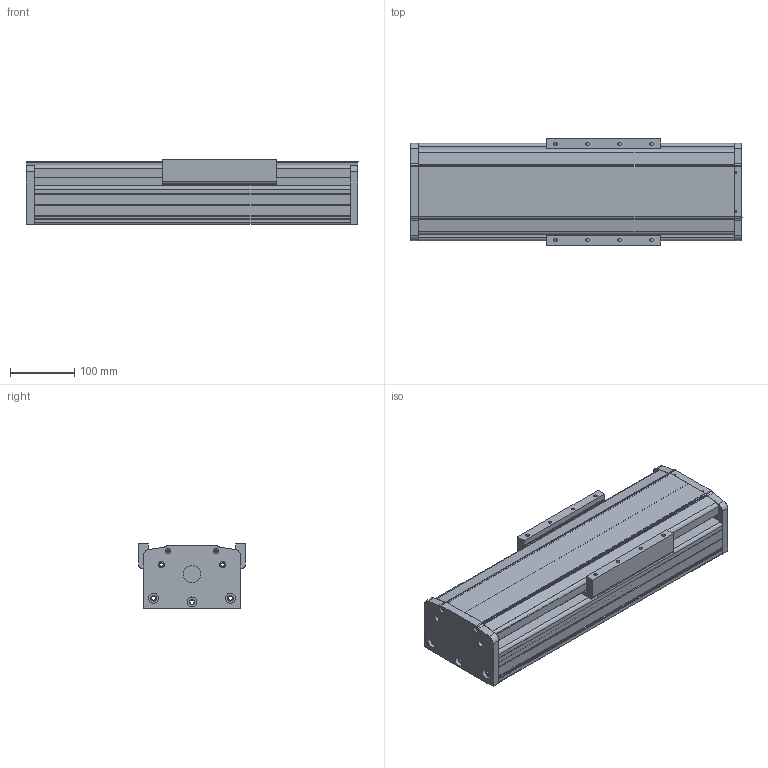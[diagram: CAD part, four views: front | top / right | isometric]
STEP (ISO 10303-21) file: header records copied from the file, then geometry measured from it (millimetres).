
FILE_DESCRIPTION(/* description */ (''),/* implementation_level */ '2;1');
FILE_NAME(/* name */ 'GF150-行程200.stp',/* time_stamp */ '2022-05-31T12:08:50+08:00',/* author */ (''),/* organization */ (''),/* preprocessor_version */ 'ST-DEVELOPER v16',/* originating_system */ 'SIEMENS PLM Software NX 10.0',/* authorisation */ '');
FILE_SCHEMA (('AP203_CONFIGURATION_CONTROLLED_3D_DESIGN_OF_MECHANICAL_PARTS_AND_ASSEMBLIES_MIM_LF { 1 0 10303 403 2 1 2}'));
Length unit declared in the file: millimetre
Products named in the file (1): Admi1B78CFABo939
Bounding box: 518 x 166 x 100.3 mm (x, y, z)
Volume: 3127246.7 mm3; surface area: 1433956.9 mm2
Topology: 19 solids, 19 shells, 919 faces, 2404 edges, 1622 vertices
Faces by surface type: plane 538, cylinder 381
Full cylindrical faces by diameter (mm): 2.5 x2, 3.3 x2, 4.2 x4, 4.3 x52, 4.5 x2, 5.3 x18, 5.5 x22, 6.5 x6, 8.5 x2, 9 x22, 9.5 x28, 15 x5, 15.5 x6, 20 x3, 27 x1, 28 x1, 35 x5, 36 x1, 37 x1, 50.3 x1
Entity records: 27402 total; most frequent: DIRECTION 4756, CARTESIAN_POINT 4652, ORIENTED_EDGE 4310, EDGE_CURVE 2155, AXIS2_PLACEMENT_3D 1685, VERTEX_POINT 1557, EDGE_LOOP 1388, LINE 1386
